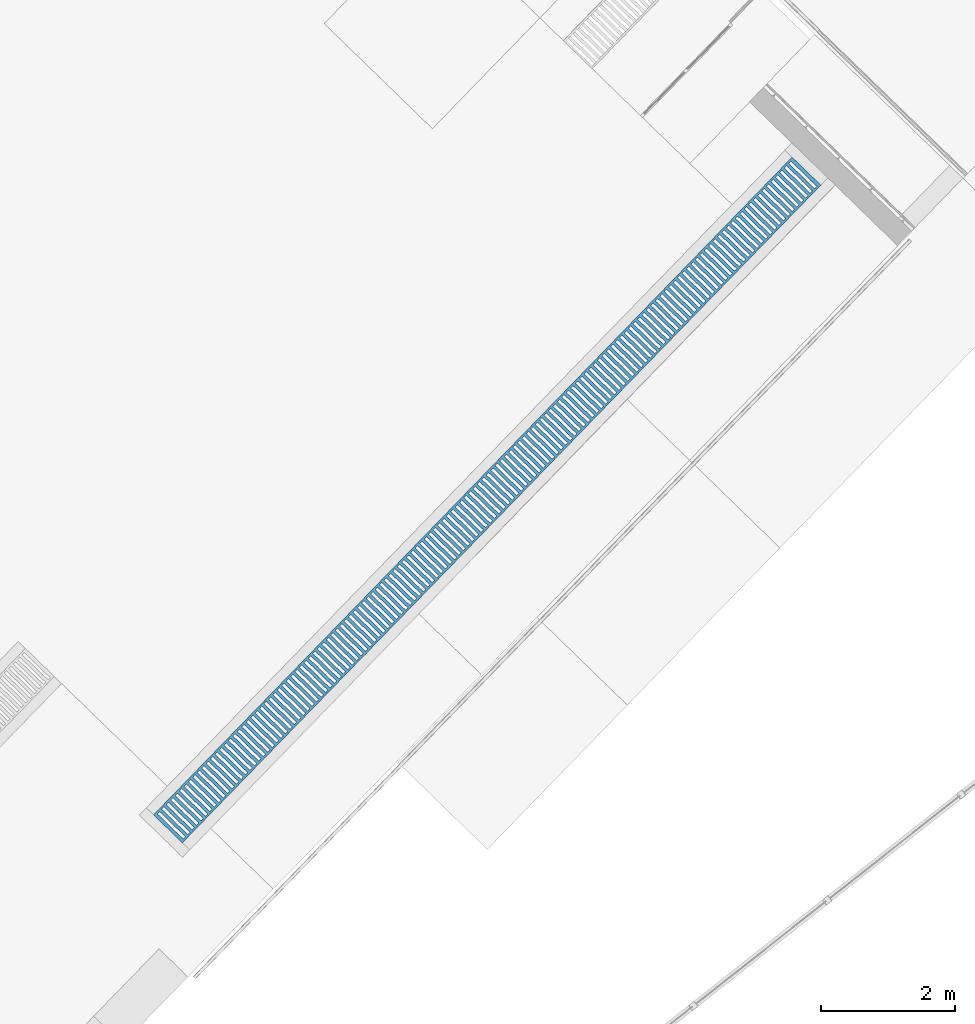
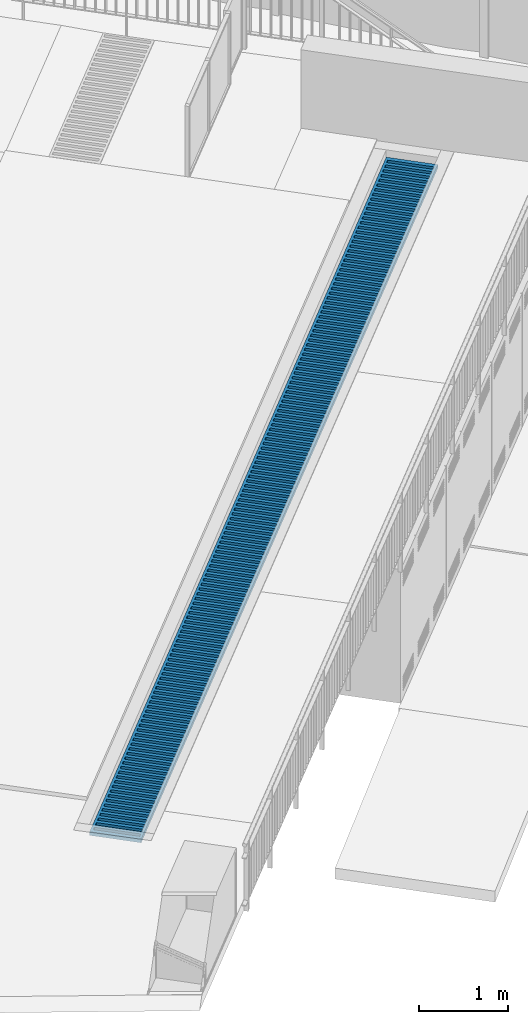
# One storey, part 16 of 37: 1 slab.
"""IFC2X3 building model written with IfcOpenShell, lengths in centimetres."""

from ifc_helpers import new_model, entity, si_unit, converted_unit, derived_unit, direction, frame, origin, place, context, subcontext, project, spatial, polyline, outline, extrude, material, element, save


model = new_model("IFC2X3")

# Units and contexts
model_context = context("Model", 3, precision=0.001, world=origin(), true_north=direction((0.717475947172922, 0.696583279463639)))
body_context = subcontext(model_context, "Body", "Model", "MODEL_VIEW")
ifc_project = project(units=[si_unit("LENGTHUNIT", "METRE", prefix="CENTI"), si_unit("AREAUNIT", "SQUARE_METRE"), si_unit("VOLUMEUNIT", "CUBIC_METRE"), converted_unit("PLANEANGLEUNIT", "DEGREE", entity("IfcRatioMeasure", 0.0174532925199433), si_unit("PLANEANGLEUNIT", "RADIAN"), dimensions=[0, 0, 0, 0, 0, 0, 0]), si_unit("MASSUNIT", "GRAM", prefix="KILO"), derived_unit("MASSDENSITYUNIT", [(si_unit("MASSUNIT", "GRAM", prefix="KILO"), 1), (si_unit("LENGTHUNIT", "METRE"), -3)]), si_unit("TIMEUNIT", "SECOND"), si_unit("FREQUENCYUNIT", "HERTZ"), si_unit("THERMODYNAMICTEMPERATUREUNIT", "DEGREE_CELSIUS"), derived_unit("THERMALTRANSMITTANCEUNIT", [(si_unit("MASSUNIT", "GRAM", prefix="KILO"), 1), (si_unit("THERMODYNAMICTEMPERATUREUNIT", "KELVIN"), -1), (si_unit("TIMEUNIT", "SECOND"), -3)]), derived_unit("VOLUMETRICFLOWRATEUNIT", [(si_unit("LENGTHUNIT", "METRE"), 3), (si_unit("TIMEUNIT", "SECOND"), -1)]), si_unit("ELECTRICCURRENTUNIT", "AMPERE"), si_unit("ELECTRICVOLTAGEUNIT", "VOLT"), si_unit("POWERUNIT", "WATT"), si_unit("FORCEUNIT", "NEWTON", prefix="KILO"), si_unit("ILLUMINANCEUNIT", "LUX"), si_unit("LUMINOUSFLUXUNIT", "LUMEN"), si_unit("LUMINOUSINTENSITYUNIT", "CANDELA"), derived_unit("USERDEFINED", [(si_unit("MASSUNIT", "GRAM", prefix="KILO"), -1), (si_unit("LENGTHUNIT", "METRE"), -2), (si_unit("TIMEUNIT", "SECOND"), 3), (si_unit("LUMINOUSFLUXUNIT", "LUMEN"), 1)]), derived_unit("LINEARVELOCITYUNIT", [(si_unit("LENGTHUNIT", "METRE"), 1), (si_unit("TIMEUNIT", "SECOND"), -1)]), si_unit("PRESSUREUNIT", "PASCAL"), derived_unit("USERDEFINED", [(si_unit("LENGTHUNIT", "METRE"), -2), (si_unit("MASSUNIT", "GRAM", prefix="KILO"), 1), (si_unit("TIMEUNIT", "SECOND"), -2)])], contexts=[model_context])

# Site, building, storey
site_placement = place(None, frame((0.0, 0.0, 0.0), z_axis=(0.0, 0.0, 1.0), x_axis=(0.696583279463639, 0.717475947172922, 0.0)))
site = spatial("IfcSite", under=ifc_project, at=site_placement, Name="Surface", CompositionType="ELEMENT")
building_placement = place(site_placement, origin())
building = spatial("IfcBuilding", under=site, at=building_placement, CompositionType="ELEMENT")
storey_placement = place(building_placement, origin())
storey = spatial("IfcBuildingStorey", under=building, at=storey_placement, Name="Nivel 0.00", CompositionType="ELEMENT", Elevation=0.0)

# Slab
ifc_material = material(Name="Stainless Steel")
slab_placement = place(storey_placement, origin())
element("IfcSlab", 1, at=slab_placement, inside=storey, material=ifc_material, Name="REGUERA_METÁLICA2:REGUERA_METÁLICA-02", ObjectType="REGUERA_METÁLICA2:REGUERA_METÁLICA-02", PredefinedType="FLOOR", context=body_context, shape_type="SweptSolid", body=[
    extrude(outline(polyline([(-29.9950213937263, -683.902039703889), (29.9950213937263, -683.902039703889), (29.9950213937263, 683.902039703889), (-29.9950213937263, 683.902039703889), (-29.9950213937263, -683.902039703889)]), holes=[polyline([(-26.9925406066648, 435.571490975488), (-26.9925406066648, 440.333990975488), (27.0035162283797, 440.333990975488), (27.0035162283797, 435.571490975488), (-26.9925406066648, 435.571490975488)]), polyline([(-26.9925406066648, 445.096490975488), (-26.9925406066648, 449.858990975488), (27.0035162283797, 449.858990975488), (27.0035162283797, 445.096490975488), (-26.9925406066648, 445.096490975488)]), polyline([(-26.9925406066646, 454.621490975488), (-26.9925406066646, 459.383990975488), (27.0035162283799, 459.383990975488), (27.0035162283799, 454.621490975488), (-26.9925406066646, 454.621490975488)]), polyline([(-26.9925406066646, 464.146490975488), (-26.9925406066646, 468.908990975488), (27.0035162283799, 468.908990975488), (27.0035162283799, 464.146490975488), (-26.9925406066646, 464.146490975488)]), polyline([(-26.9925406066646, 473.671490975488), (-26.9925406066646, 478.433990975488), (27.0035162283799, 478.433990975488), (27.0035162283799, 473.671490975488), (-26.9925406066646, 473.671490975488)]), polyline([(-26.9925406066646, 483.196490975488), (-26.9925406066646, 487.958990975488), (27.0035162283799, 487.958990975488), (27.0035162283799, 483.196490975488), (-26.9925406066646, 483.196490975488)]), polyline([(-26.9925406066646, 492.721490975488), (-26.9925406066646, 497.483990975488), (27.0035162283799, 497.483990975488), (27.0035162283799, 492.721490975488), (-26.9925406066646, 492.721490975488)]), polyline([(-26.9925406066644, 502.246490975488), (-26.9925406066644, 507.008990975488), (27.0035162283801, 507.008990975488), (27.0035162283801, 502.246490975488), (-26.9925406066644, 502.246490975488)]), polyline([(-26.9925406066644, 511.771490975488), (-26.9925406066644, 516.533990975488), (27.0035162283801, 516.533990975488), (27.0035162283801, 511.771490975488), (-26.9925406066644, 511.771490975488)]), polyline([(-26.9925406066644, 521.296490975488), (-26.9925406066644, 526.058990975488), (27.0035162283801, 526.058990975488), (27.0035162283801, 521.296490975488), (-26.9925406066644, 521.296490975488)]), polyline([(-26.9925406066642, 530.821490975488), (-26.9925406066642, 535.583990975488), (27.0035162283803, 535.583990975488), (27.0035162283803, 530.821490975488), (-26.9925406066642, 530.821490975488)]), polyline([(-26.9925406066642, 540.346490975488), (-26.9925406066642, 545.108990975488), (27.0035162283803, 545.108990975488), (27.0035162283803, 540.346490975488), (-26.9925406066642, 540.346490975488)]), polyline([(-26.9925406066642, 549.871490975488), (-26.9925406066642, 554.633990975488), (27.0035162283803, 554.633990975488), (27.0035162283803, 549.871490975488), (-26.9925406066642, 549.871490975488)]), polyline([(-26.9925406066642, 559.396490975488), (-26.9925406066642, 564.158990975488), (27.0035162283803, 564.158990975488), (27.0035162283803, 559.396490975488), (-26.9925406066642, 559.396490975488)]), polyline([(-26.9925406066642, 568.921490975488), (-26.9925406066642, 573.683990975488), (27.0035162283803, 573.683990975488), (27.0035162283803, 568.921490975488), (-26.9925406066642, 568.921490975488)]), polyline([(-26.992540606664, 578.446490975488), (-26.992540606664, 583.208990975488), (27.0035162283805, 583.208990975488), (27.0035162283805, 578.446490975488), (-26.992540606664, 578.446490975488)]), polyline([(-26.992540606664, 587.971490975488), (-26.992540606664, 592.733990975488), (27.0035162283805, 592.733990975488), (27.0035162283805, 587.971490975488), (-26.992540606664, 587.971490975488)]), polyline([(-26.992540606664, 597.496490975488), (-26.992540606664, 602.258990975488), (27.0035162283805, 602.258990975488), (27.0035162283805, 597.496490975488), (-26.992540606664, 597.496490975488)]), polyline([(-26.9925406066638, 607.021490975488), (-26.9925406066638, 611.783990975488), (27.0035162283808, 611.783990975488), (27.0035162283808, 607.021490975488), (-26.9925406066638, 607.021490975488)]), polyline([(-26.9925406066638, 616.546490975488), (-26.9925406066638, 621.308990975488), (27.0035162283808, 621.308990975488), (27.0035162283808, 616.546490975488), (-26.9925406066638, 616.546490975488)]), polyline([(-26.9925406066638, 626.071490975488), (-26.9925406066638, 630.833990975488), (27.0035162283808, 630.833990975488), (27.0035162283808, 626.071490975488), (-26.9925406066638, 626.071490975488)]), polyline([(-26.9925406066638, 635.596490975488), (-26.9925406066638, 640.358990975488), (27.0035162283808, 640.358990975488), (27.0035162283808, 635.596490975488), (-26.9925406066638, 635.596490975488)]), polyline([(-26.9925406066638, 645.121490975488), (-26.9925406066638, 649.883990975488), (27.0035162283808, 649.883990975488), (27.0035162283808, 645.121490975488), (-26.9925406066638, 645.121490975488)]), polyline([(-26.9925406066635, 654.646490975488), (-26.9925406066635, 659.408990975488), (27.003516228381, 659.408990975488), (27.003516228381, 654.646490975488), (-26.9925406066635, 654.646490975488)]), polyline([(-26.9925406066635, 664.171490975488), (-26.9925406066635, 668.933990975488), (27.003516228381, 668.933990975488), (27.003516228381, 664.171490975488), (-26.9925406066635, 664.171490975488)]), polyline([(-26.9925406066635, 673.696490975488), (-26.9925406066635, 678.458990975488), (27.003516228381, 678.458990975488), (27.003516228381, 673.696490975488), (-26.9925406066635, 673.696490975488)]), polyline([(-26.9925406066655, 197.446490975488), (-26.9925406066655, 202.208990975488), (27.003516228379, 202.208990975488), (27.003516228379, 197.446490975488), (-26.9925406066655, 197.446490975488)]), polyline([(-26.9925406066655, 206.971490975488), (-26.9925406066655, 211.733990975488), (27.003516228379, 211.733990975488), (27.003516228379, 206.971490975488), (-26.9925406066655, 206.971490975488)]), polyline([(-26.9925406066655, 216.496490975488), (-26.9925406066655, 221.258990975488), (27.003516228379, 221.258990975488), (27.003516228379, 216.496490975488), (-26.9925406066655, 216.496490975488)]), polyline([(-26.9925406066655, 226.021490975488), (-26.9925406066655, 230.783990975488), (27.003516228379, 230.783990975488), (27.003516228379, 226.021490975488), (-26.9925406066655, 226.021490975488)]), polyline([(-26.9925406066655, 235.546490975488), (-26.9925406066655, 240.308990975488), (27.003516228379, 240.308990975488), (27.003516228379, 235.546490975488), (-26.9925406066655, 235.546490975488)]), polyline([(-26.9925406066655, 245.071490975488), (-26.9925406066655, 249.833990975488), (27.003516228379, 249.833990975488), (27.003516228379, 245.071490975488), (-26.9925406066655, 245.071490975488)]), polyline([(-26.9925406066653, 254.596490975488), (-26.9925406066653, 259.358990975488), (27.0035162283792, 259.358990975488), (27.0035162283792, 254.596490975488), (-26.9925406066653, 254.596490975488)]), polyline([(-26.9925406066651, 264.121490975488), (-26.9925406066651, 268.883990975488), (27.0035162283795, 268.883990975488), (27.0035162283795, 264.121490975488), (-26.9925406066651, 264.121490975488)]), polyline([(-26.9925406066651, 273.646490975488), (-26.9925406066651, 278.408990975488), (27.0035162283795, 278.408990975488), (27.0035162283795, 273.646490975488), (-26.9925406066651, 273.646490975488)]), polyline([(-26.9925406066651, 283.171490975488), (-26.9925406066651, 287.933990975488), (27.0035162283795, 287.933990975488), (27.0035162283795, 283.171490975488), (-26.9925406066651, 283.171490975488)]), polyline([(-26.9925406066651, 292.696490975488), (-26.9925406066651, 297.458990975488), (27.0035162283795, 297.458990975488), (27.0035162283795, 292.696490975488), (-26.9925406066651, 292.696490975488)]), polyline([(-26.9925406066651, 302.221490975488), (-26.9925406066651, 306.983990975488), (27.0035162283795, 306.983990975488), (27.0035162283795, 302.221490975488), (-26.9925406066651, 302.221490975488)]), polyline([(-26.9925406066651, 311.746490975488), (-26.9925406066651, 316.508990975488), (27.0035162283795, 316.508990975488), (27.0035162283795, 311.746490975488), (-26.9925406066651, 311.746490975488)]), polyline([(-26.9925406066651, 321.271490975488), (-26.9925406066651, 326.033990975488), (27.0035162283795, 326.033990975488), (27.0035162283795, 321.271490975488), (-26.9925406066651, 321.271490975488)]), polyline([(-26.9925406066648, 330.796490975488), (-26.9925406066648, 335.558990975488), (27.0035162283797, 335.558990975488), (27.0035162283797, 330.796490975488), (-26.9925406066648, 330.796490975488)]), polyline([(-26.9925406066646, 340.321490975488), (-26.9925406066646, 345.083990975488), (27.0035162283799, 345.083990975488), (27.0035162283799, 340.321490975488), (-26.9925406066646, 340.321490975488)]), polyline([(-26.9925406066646, 349.846490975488), (-26.9925406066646, 354.608990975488), (27.0035162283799, 354.608990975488), (27.0035162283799, 349.846490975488), (-26.9925406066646, 349.846490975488)]), polyline([(-26.9925406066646, 359.371490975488), (-26.9925406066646, 364.133990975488), (27.0035162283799, 364.133990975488), (27.0035162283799, 359.371490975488), (-26.9925406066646, 359.371490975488)]), polyline([(-26.9925406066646, 368.896490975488), (-26.9925406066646, 373.658990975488), (27.0035162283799, 373.658990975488), (27.0035162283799, 368.896490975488), (-26.9925406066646, 368.896490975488)]), polyline([(-26.9925406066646, 378.421490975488), (-26.9925406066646, 383.183990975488), (27.0035162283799, 383.183990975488), (27.0035162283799, 378.421490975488), (-26.9925406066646, 378.421490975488)]), polyline([(-26.9925406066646, 387.946490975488), (-26.9925406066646, 392.708990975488), (27.0035162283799, 392.708990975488), (27.0035162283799, 387.946490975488), (-26.9925406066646, 387.946490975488)]), polyline([(-26.9925406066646, 397.471490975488), (-26.9925406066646, 402.233990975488), (27.0035162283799, 402.233990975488), (27.0035162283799, 397.471490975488), (-26.9925406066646, 397.471490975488)]), polyline([(-26.9925406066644, 406.996490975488), (-26.9925406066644, 411.758990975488), (27.0035162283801, 411.758990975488), (27.0035162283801, 406.996490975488), (-26.9925406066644, 406.996490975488)]), polyline([(-26.9925406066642, 416.521490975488), (-26.9925406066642, 421.283990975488), (27.0035162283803, 421.283990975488), (27.0035162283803, 416.521490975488), (-26.9925406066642, 416.521490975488)]), polyline([(-26.9925406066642, 426.046490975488), (-26.9925406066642, 430.808990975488), (27.0035162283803, 430.808990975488), (27.0035162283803, 426.046490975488), (-26.9925406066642, 426.046490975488)]), polyline([(-26.9925406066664, -40.6785090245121), (-26.9925406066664, -35.9160090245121), (27.0035162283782, -35.9160090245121), (27.0035162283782, -40.6785090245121), (-26.9925406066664, -40.6785090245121)]), polyline([(-26.9925406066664, -31.1535090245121), (-26.9925406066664, -26.3910090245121), (27.0035162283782, -26.3910090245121), (27.0035162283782, -31.1535090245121), (-26.9925406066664, -31.1535090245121)]), polyline([(-26.9925406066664, -21.6285090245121), (-26.9925406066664, -16.8660090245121), (27.0035162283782, -16.8660090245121), (27.0035162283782, -21.6285090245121), (-26.9925406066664, -21.6285090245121)]), polyline([(-26.9925406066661, -12.1035090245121), (-26.9925406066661, -7.34100902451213), (27.0035162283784, -7.34100902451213), (27.0035162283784, -12.1035090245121), (-26.9925406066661, -12.1035090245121)]), polyline([(-26.9925406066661, -2.57850902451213), (-26.9925406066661, 2.18399097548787), (27.0035162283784, 2.18399097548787), (27.0035162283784, -2.57850902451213), (-26.9925406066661, -2.57850902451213)]), polyline([(-26.9925406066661, 6.94649097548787), (-26.9925406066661, 11.7089909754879), (27.0035162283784, 11.7089909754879), (27.0035162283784, 6.94649097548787), (-26.9925406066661, 6.94649097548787)]), polyline([(-26.9925406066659, 16.471490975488), (-26.9925406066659, 21.233990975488), (27.0035162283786, 21.233990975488), (27.0035162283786, 16.471490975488), (-26.9925406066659, 16.471490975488)]), polyline([(-26.9925406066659, 25.996490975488), (-26.9925406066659, 30.758990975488), (27.0035162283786, 30.758990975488), (27.0035162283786, 25.996490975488), (-26.9925406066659, 25.996490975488)]), polyline([(-26.9925406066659, 35.521490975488), (-26.9925406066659, 40.283990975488), (27.0035162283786, 40.283990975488), (27.0035162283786, 35.521490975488), (-26.9925406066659, 35.521490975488)]), polyline([(-26.9925406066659, 45.046490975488), (-26.9925406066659, 49.808990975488), (27.0035162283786, 49.808990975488), (27.0035162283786, 45.046490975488), (-26.9925406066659, 45.046490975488)]), polyline([(-26.9925406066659, 54.571490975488), (-26.9925406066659, 59.333990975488), (27.0035162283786, 59.333990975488), (27.0035162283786, 54.571490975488), (-26.9925406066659, 54.571490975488)]), polyline([(-26.9925406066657, 64.096490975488), (-26.9925406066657, 68.858990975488), (27.0035162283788, 68.858990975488), (27.0035162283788, 64.096490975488), (-26.9925406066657, 64.096490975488)]), polyline([(-26.9925406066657, 73.621490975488), (-26.9925406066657, 78.383990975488), (27.0035162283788, 78.383990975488), (27.0035162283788, 73.621490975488), (-26.9925406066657, 73.621490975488)]), polyline([(-26.9925406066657, 83.146490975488), (-26.9925406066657, 87.908990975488), (27.0035162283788, 87.908990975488), (27.0035162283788, 83.146490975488), (-26.9925406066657, 83.146490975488)]), polyline([(-26.9925406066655, 92.671490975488), (-26.9925406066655, 97.433990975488), (27.003516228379, 97.433990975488), (27.003516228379, 92.671490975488), (-26.9925406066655, 92.671490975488)]), polyline([(-26.9925406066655, 102.196490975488), (-26.9925406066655, 106.958990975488), (27.003516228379, 106.958990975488), (27.003516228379, 102.196490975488), (-26.9925406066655, 102.196490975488)]), polyline([(-26.9925406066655, 111.721490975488), (-26.9925406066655, 116.483990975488), (27.003516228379, 116.483990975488), (27.003516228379, 111.721490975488), (-26.9925406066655, 111.721490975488)]), polyline([(-26.9925406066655, 121.246490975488), (-26.9925406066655, 126.008990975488), (27.003516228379, 126.008990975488), (27.003516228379, 121.246490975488), (-26.9925406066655, 121.246490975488)]), polyline([(-26.9925406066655, 130.771490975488), (-26.9925406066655, 135.533990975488), (27.003516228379, 135.533990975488), (27.003516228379, 130.771490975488), (-26.9925406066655, 130.771490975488)]), polyline([(-26.9925406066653, 140.296490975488), (-26.9925406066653, 145.058990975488), (27.0035162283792, 145.058990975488), (27.0035162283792, 140.296490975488), (-26.9925406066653, 140.296490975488)]), polyline([(-26.9925406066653, 149.821490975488), (-26.9925406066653, 154.583990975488), (27.0035162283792, 154.583990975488), (27.0035162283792, 149.821490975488), (-26.9925406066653, 149.821490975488)]), polyline([(-26.9925406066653, 159.346490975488), (-26.9925406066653, 164.108990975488), (27.0035162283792, 164.108990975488), (27.0035162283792, 159.346490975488), (-26.9925406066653, 159.346490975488)]), polyline([(-26.9925406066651, 168.871490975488), (-26.9925406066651, 173.633990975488), (27.0035162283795, 173.633990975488), (27.0035162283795, 168.871490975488), (-26.9925406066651, 168.871490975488)]), polyline([(-26.9925406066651, 178.396490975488), (-26.9925406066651, 183.158990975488), (27.0035162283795, 183.158990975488), (27.0035162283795, 178.396490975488), (-26.9925406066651, 178.396490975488)]), polyline([(-26.9925406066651, 187.921490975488), (-26.9925406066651, 192.683990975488), (27.0035162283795, 192.683990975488), (27.0035162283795, 187.921490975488), (-26.9925406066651, 187.921490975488)]), polyline([(-26.9925406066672, -278.803509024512), (-26.9925406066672, -274.041009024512), (27.0035162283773, -274.041009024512), (27.0035162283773, -278.803509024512), (-26.9925406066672, -278.803509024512)]), polyline([(-26.9925406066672, -269.278509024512), (-26.9925406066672, -264.516009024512), (27.0035162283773, -264.516009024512), (27.0035162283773, -269.278509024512), (-26.9925406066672, -269.278509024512)]), polyline([(-26.992540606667, -259.753509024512), (-26.992540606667, -254.991009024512), (27.0035162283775, -254.991009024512), (27.0035162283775, -259.753509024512), (-26.992540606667, -259.753509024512)]), polyline([(-26.9925406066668, -250.228509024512), (-26.9925406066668, -245.466009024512), (27.0035162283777, -245.466009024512), (27.0035162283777, -250.228509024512), (-26.9925406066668, -250.228509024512)]), polyline([(-26.9925406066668, -240.703509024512), (-26.9925406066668, -235.941009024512), (27.0035162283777, -235.941009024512), (27.0035162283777, -240.703509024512), (-26.9925406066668, -240.703509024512)]), polyline([(-26.9925406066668, -231.178509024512), (-26.9925406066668, -226.416009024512), (27.0035162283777, -226.416009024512), (27.0035162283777, -231.178509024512), (-26.9925406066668, -231.178509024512)]), polyline([(-26.9925406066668, -221.653509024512), (-26.9925406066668, -216.891009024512), (27.0035162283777, -216.891009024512), (27.0035162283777, -221.653509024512), (-26.9925406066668, -221.653509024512)]), polyline([(-26.9925406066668, -212.128509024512), (-26.9925406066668, -207.366009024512), (27.0035162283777, -207.366009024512), (27.0035162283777, -212.128509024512), (-26.9925406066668, -212.128509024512)]), polyline([(-26.9925406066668, -202.603509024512), (-26.9925406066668, -197.841009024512), (27.0035162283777, -197.841009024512), (27.0035162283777, -202.603509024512), (-26.9925406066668, -202.603509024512)]), polyline([(-26.9925406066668, -193.078509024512), (-26.9925406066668, -188.316009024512), (27.0035162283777, -188.316009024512), (27.0035162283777, -193.078509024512), (-26.9925406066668, -193.078509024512)]), polyline([(-26.9925406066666, -183.553509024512), (-26.9925406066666, -178.791009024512), (27.0035162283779, -178.791009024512), (27.0035162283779, -183.553509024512), (-26.9925406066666, -183.553509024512)]), polyline([(-26.9925406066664, -174.028509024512), (-26.9925406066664, -169.266009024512), (27.0035162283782, -169.266009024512), (27.0035162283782, -174.028509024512), (-26.9925406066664, -174.028509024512)]), polyline([(-26.9925406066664, -164.503509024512), (-26.9925406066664, -159.741009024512), (27.0035162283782, -159.741009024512), (27.0035162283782, -164.503509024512), (-26.9925406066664, -164.503509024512)]), polyline([(-26.9925406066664, -154.978509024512), (-26.9925406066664, -150.216009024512), (27.0035162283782, -150.216009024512), (27.0035162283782, -154.978509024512), (-26.9925406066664, -154.978509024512)]), polyline([(-26.9925406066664, -145.453509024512), (-26.9925406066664, -140.691009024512), (27.0035162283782, -140.691009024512), (27.0035162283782, -145.453509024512), (-26.9925406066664, -145.453509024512)]), polyline([(-26.9925406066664, -135.928509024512), (-26.9925406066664, -131.166009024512), (27.0035162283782, -131.166009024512), (27.0035162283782, -135.928509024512), (-26.9925406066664, -135.928509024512)]), polyline([(-26.9925406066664, -126.403509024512), (-26.9925406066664, -121.641009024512), (27.0035162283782, -121.641009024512), (27.0035162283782, -126.403509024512), (-26.9925406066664, -126.403509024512)]), polyline([(-26.9925406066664, -116.878509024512), (-26.9925406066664, -112.116009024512), (27.0035162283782, -112.116009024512), (27.0035162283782, -116.878509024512), (-26.9925406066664, -116.878509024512)]), polyline([(-26.9925406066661, -107.353509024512), (-26.9925406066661, -102.591009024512), (27.0035162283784, -102.591009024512), (27.0035162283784, -107.353509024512), (-26.9925406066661, -107.353509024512)]), polyline([(-26.9925406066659, -97.8285090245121), (-26.9925406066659, -93.0660090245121), (27.0035162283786, -93.0660090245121), (27.0035162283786, -97.8285090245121), (-26.9925406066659, -97.8285090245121)]), polyline([(-26.9925406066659, -88.3035090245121), (-26.9925406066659, -83.5410090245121), (27.0035162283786, -83.5410090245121), (27.0035162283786, -88.3035090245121), (-26.9925406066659, -88.3035090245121)]), polyline([(-26.9925406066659, -78.7785090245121), (-26.9925406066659, -74.0160090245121), (27.0035162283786, -74.0160090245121), (27.0035162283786, -78.7785090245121), (-26.9925406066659, -78.7785090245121)]), polyline([(-26.9925406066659, -69.2535090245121), (-26.9925406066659, -64.4910090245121), (27.0035162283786, -64.4910090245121), (27.0035162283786, -69.2535090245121), (-26.9925406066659, -69.2535090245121)]), polyline([(-26.9925406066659, -59.7285090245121), (-26.9925406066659, -54.9660090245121), (27.0035162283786, -54.9660090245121), (27.0035162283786, -59.7285090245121), (-26.9925406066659, -59.7285090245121)]), polyline([(-26.9925406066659, -50.2035090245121), (-26.9925406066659, -45.4410090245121), (27.0035162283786, -45.4410090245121), (27.0035162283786, -50.2035090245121), (-26.9925406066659, -50.2035090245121)]), polyline([(-26.9925406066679, -516.928509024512), (-26.9925406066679, -512.166009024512), (27.0035162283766, -512.166009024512), (27.0035162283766, -516.928509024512), (-26.9925406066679, -516.928509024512)]), polyline([(-26.9925406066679, -507.403509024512), (-26.9925406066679, -502.641009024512), (27.0035162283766, -502.641009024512), (27.0035162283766, -507.403509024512), (-26.9925406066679, -507.403509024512)]), polyline([(-26.9925406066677, -497.878509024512), (-26.9925406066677, -493.116009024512), (27.0035162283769, -493.116009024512), (27.0035162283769, -497.878509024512), (-26.9925406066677, -497.878509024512)]), polyline([(-26.9925406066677, -488.353509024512), (-26.9925406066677, -483.591009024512), (27.0035162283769, -483.591009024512), (27.0035162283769, -488.353509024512), (-26.9925406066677, -488.353509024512)]), polyline([(-26.9925406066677, -478.828509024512), (-26.9925406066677, -474.066009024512), (27.0035162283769, -474.066009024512), (27.0035162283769, -478.828509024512), (-26.9925406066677, -478.828509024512)]), polyline([(-26.9925406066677, -469.303509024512), (-26.9925406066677, -464.541009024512), (27.0035162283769, -464.541009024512), (27.0035162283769, -469.303509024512), (-26.9925406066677, -469.303509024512)]), polyline([(-26.9925406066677, -459.778509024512), (-26.9925406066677, -455.016009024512), (27.0035162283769, -455.016009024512), (27.0035162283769, -459.778509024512), (-26.9925406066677, -459.778509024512)]), polyline([(-26.9925406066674, -450.253509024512), (-26.9925406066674, -445.491009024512), (27.0035162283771, -445.491009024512), (27.0035162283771, -450.253509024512), (-26.9925406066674, -450.253509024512)]), polyline([(-26.9925406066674, -440.728509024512), (-26.9925406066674, -435.966009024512), (27.0035162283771, -435.966009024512), (27.0035162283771, -440.728509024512), (-26.9925406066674, -440.728509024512)]), polyline([(-26.9925406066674, -431.203509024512), (-26.9925406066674, -426.441009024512), (27.0035162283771, -426.441009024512), (27.0035162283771, -431.203509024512), (-26.9925406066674, -431.203509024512)]), polyline([(-26.9925406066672, -421.678509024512), (-26.9925406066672, -416.916009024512), (27.0035162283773, -416.916009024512), (27.0035162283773, -421.678509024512), (-26.9925406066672, -421.678509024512)]), polyline([(-26.9925406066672, -412.153509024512), (-26.9925406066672, -407.391009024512), (27.0035162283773, -407.391009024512), (27.0035162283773, -412.153509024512), (-26.9925406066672, -412.153509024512)]), polyline([(-26.9925406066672, -402.628509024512), (-26.9925406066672, -397.866009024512), (27.0035162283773, -397.866009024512), (27.0035162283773, -402.628509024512), (-26.9925406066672, -402.628509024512)]), polyline([(-26.9925406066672, -393.103509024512), (-26.9925406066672, -388.341009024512), (27.0035162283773, -388.341009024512), (27.0035162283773, -393.103509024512), (-26.9925406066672, -393.103509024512)]), polyline([(-26.9925406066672, -383.578509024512), (-26.9925406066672, -378.816009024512), (27.0035162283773, -378.816009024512), (27.0035162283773, -383.578509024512), (-26.9925406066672, -383.578509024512)]), polyline([(-26.992540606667, -374.053509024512), (-26.992540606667, -369.291009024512), (27.0035162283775, -369.291009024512), (27.0035162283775, -374.053509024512), (-26.992540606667, -374.053509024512)]), polyline([(-26.992540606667, -364.528509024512), (-26.992540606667, -359.766009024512), (27.0035162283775, -359.766009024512), (27.0035162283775, -364.528509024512), (-26.992540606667, -364.528509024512)]), polyline([(-26.992540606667, -355.003509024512), (-26.992540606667, -350.241009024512), (27.0035162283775, -350.241009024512), (27.0035162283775, -355.003509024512), (-26.992540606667, -355.003509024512)]), polyline([(-26.9925406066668, -345.478509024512), (-26.9925406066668, -340.716009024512), (27.0035162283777, -340.716009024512), (27.0035162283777, -345.478509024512), (-26.9925406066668, -345.478509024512)]), polyline([(-26.9925406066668, -335.953509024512), (-26.9925406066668, -331.191009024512), (27.0035162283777, -331.191009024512), (27.0035162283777, -335.953509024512), (-26.9925406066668, -335.953509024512)]), polyline([(-26.9925406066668, -326.428509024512), (-26.9925406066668, -321.666009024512), (27.0035162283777, -321.666009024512), (27.0035162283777, -326.428509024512), (-26.9925406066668, -326.428509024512)]), polyline([(-26.9925406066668, -316.903509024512), (-26.9925406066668, -312.141009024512), (27.0035162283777, -312.141009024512), (27.0035162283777, -316.903509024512), (-26.9925406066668, -316.903509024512)]), polyline([(-26.9925406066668, -307.378509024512), (-26.9925406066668, -302.616009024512), (27.0035162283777, -302.616009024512), (27.0035162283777, -307.378509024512), (-26.9925406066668, -307.378509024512)]), polyline([(-26.9925406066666, -297.853509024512), (-26.9925406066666, -293.091009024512), (27.0035162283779, -293.091009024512), (27.0035162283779, -297.853509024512), (-26.9925406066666, -297.853509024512)]), polyline([(-26.9925406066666, -288.328509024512), (-26.9925406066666, -283.566009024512), (27.0035162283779, -283.566009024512), (27.0035162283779, -288.328509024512), (-26.9925406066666, -288.328509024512)]), polyline([(-26.9925406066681, -678.853509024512), (-26.9925406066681, -674.091009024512), (27.0035162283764, -674.091009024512), (27.0035162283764, -678.853509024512), (-26.9925406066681, -678.853509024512)]), polyline([(-26.9925406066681, -669.328509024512), (-26.9925406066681, -664.566009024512), (27.0035162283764, -664.566009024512), (27.0035162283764, -669.328509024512), (-26.9925406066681, -669.328509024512)]), polyline([(-26.9925406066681, -659.803509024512), (-26.9925406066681, -655.041009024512), (27.0035162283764, -655.041009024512), (27.0035162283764, -659.803509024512), (-26.9925406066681, -659.803509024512)]), polyline([(-26.9925406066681, -650.278509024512), (-26.9925406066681, -645.516009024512), (27.0035162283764, -645.516009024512), (27.0035162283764, -650.278509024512), (-26.9925406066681, -650.278509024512)]), polyline([(-26.9925406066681, -640.753509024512), (-26.9925406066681, -635.991009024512), (27.0035162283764, -635.991009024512), (27.0035162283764, -640.753509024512), (-26.9925406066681, -640.753509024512)]), polyline([(-26.9925406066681, -631.228509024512), (-26.9925406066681, -626.466009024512), (27.0035162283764, -626.466009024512), (27.0035162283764, -631.228509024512), (-26.9925406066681, -631.228509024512)]), polyline([(-26.9925406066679, -621.703509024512), (-26.9925406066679, -616.941009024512), (27.0035162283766, -616.941009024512), (27.0035162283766, -621.703509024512), (-26.9925406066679, -621.703509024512)]), polyline([(-26.9925406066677, -612.178509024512), (-26.9925406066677, -607.416009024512), (27.0035162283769, -607.416009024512), (27.0035162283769, -612.178509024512), (-26.9925406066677, -612.178509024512)]), polyline([(-26.9925406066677, -602.653509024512), (-26.9925406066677, -597.891009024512), (27.0035162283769, -597.891009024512), (27.0035162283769, -602.653509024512), (-26.9925406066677, -602.653509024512)]), polyline([(-26.9925406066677, -593.128509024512), (-26.9925406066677, -588.366009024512), (27.0035162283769, -588.366009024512), (27.0035162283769, -593.128509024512), (-26.9925406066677, -593.128509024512)]), polyline([(-26.9925406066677, -583.603509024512), (-26.9925406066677, -578.841009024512), (27.0035162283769, -578.841009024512), (27.0035162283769, -583.603509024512), (-26.9925406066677, -583.603509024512)]), polyline([(-26.9925406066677, -574.078509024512), (-26.9925406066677, -569.316009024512), (27.0035162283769, -569.316009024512), (27.0035162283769, -574.078509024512), (-26.9925406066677, -574.078509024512)]), polyline([(-26.9925406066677, -564.553509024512), (-26.9925406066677, -559.791009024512), (27.0035162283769, -559.791009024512), (27.0035162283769, -564.553509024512), (-26.9925406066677, -564.553509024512)]), polyline([(-26.9925406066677, -555.028509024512), (-26.9925406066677, -550.266009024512), (27.0035162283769, -550.266009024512), (27.0035162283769, -555.028509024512), (-26.9925406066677, -555.028509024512)]), polyline([(-26.9925406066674, -545.503509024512), (-26.9925406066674, -540.741009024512), (27.0035162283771, -540.741009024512), (27.0035162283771, -545.503509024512), (-26.9925406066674, -545.503509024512)]), polyline([(-26.9925406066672, -535.978509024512), (-26.9925406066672, -531.216009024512), (27.0035162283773, -531.216009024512), (27.0035162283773, -535.978509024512), (-26.9925406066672, -535.978509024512)]), polyline([(-26.9925406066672, -526.453509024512), (-26.9925406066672, -521.691009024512), (27.0035162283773, -521.691009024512), (27.0035162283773, -526.453509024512), (-26.9925406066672, -526.453509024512)])]), frame((961.650465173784, -1390.04987864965, 135.0), z_axis=(0.0, 0.0, 1.0), x_axis=(0.0, -1.0, 0.0)), (0.0, 0.0, 1.0), 5.0),
])

save(model, "model.ifc")
